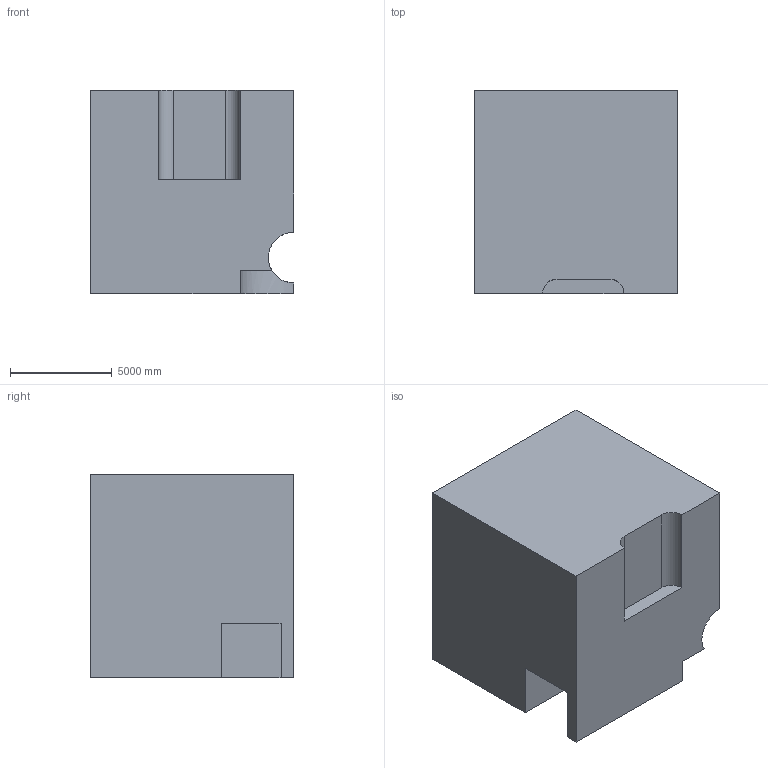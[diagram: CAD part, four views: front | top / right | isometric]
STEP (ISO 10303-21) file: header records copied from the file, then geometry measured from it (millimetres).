
FILE_DESCRIPTION (( 'STEP AP203' ), '1' );
FILE_NAME ('1544.STEP', '2022-08-18T15:41:58', ( 'user' ), ( '' ), 'SwSTEP 2.0', 'SolidWorks 2021', '' );
FILE_SCHEMA (( 'CONFIG_CONTROL_DESIGN' ));
Length unit declared in the file: centimetre
Products named in the file (1): 1544
Bounding box: 10000 x 10000 x 10000 mm (x, y, z)
Volume: 879221199105.2 mm3; surface area: 707846261.8 mm2
Topology: 1 solids, 1 shells, 29 faces, 81 edges, 54 vertices
Faces by surface type: plane 25, cylinder 4
Entity records: 1047 total; most frequent: CARTESIAN_POINT 210, ORIENTED_EDGE 162, DIRECTION 148, EDGE_CURVE 81, LINE 72, VECTOR 72, VERTEX_POINT 54, AXIS2_PLACEMENT_3D 38
